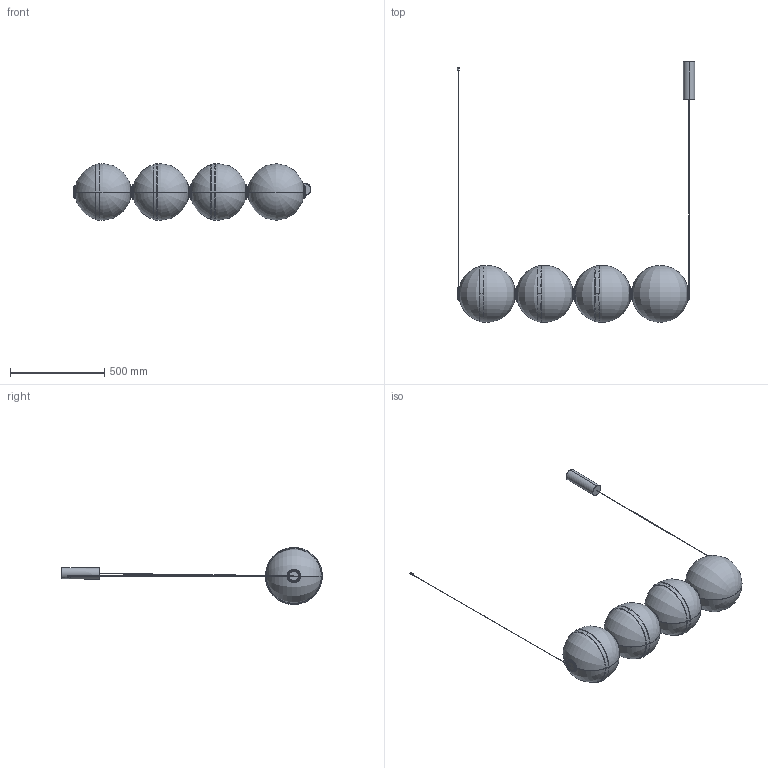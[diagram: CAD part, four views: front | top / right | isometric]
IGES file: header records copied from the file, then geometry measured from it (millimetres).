
Start section: SolidWorks IGES file using analytic representation for surfaces
Global section: file name: \\ARNOLD\compartida\Nueva Coleccion Septiembre 2026\LUDO_1368\LUDO_C1368_4\3D\LUDO_C1368_4.IGS; native system: SolidWorks 2023; preprocessor: SolidWorks 2023; author: adrian; date: 260827.131426; units: millimetre
Bounding box: 1258.09 x 1380.35 x 301.86 mm (x, y, z)
Surface area: 1730098.6 mm2 (no closed solid volume)
Topology: 0 solids, 0 shells, 300 faces, 5825 edges, 5817 vertices
Faces by surface type: revolution 191, bspline 109
